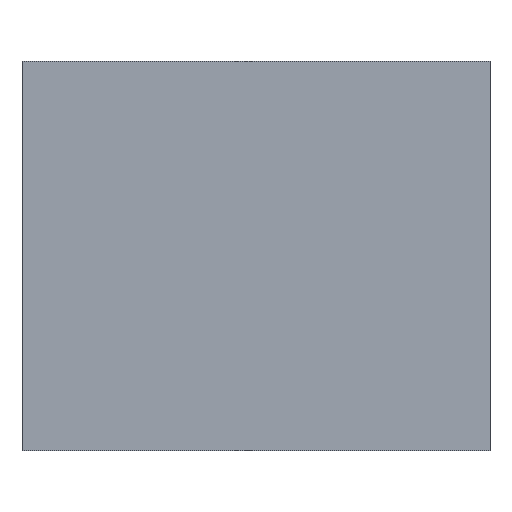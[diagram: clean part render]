
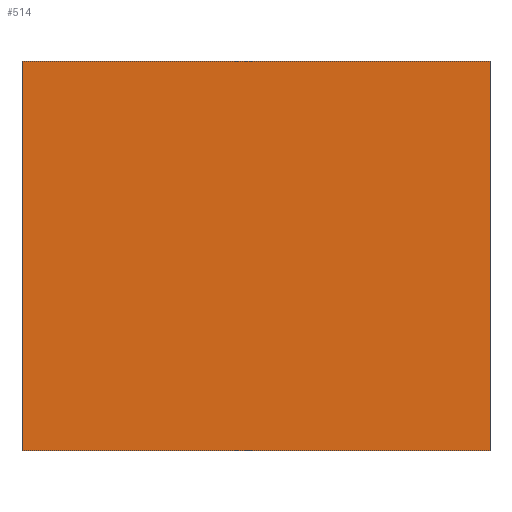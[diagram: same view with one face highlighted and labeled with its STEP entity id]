
A CAD part, front view. The second image highlights one B-rep face of the part: STEP entity #514.
In plain terms, the highlighted planar face has unit normal (0, -1, 0).
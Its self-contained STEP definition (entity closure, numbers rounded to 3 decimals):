
#44 = PLANE('',#45);
#45 = AXIS2_PLACEMENT_3D('',#46,#47,#48);
#46 = CARTESIAN_POINT('',(15.,45.,25.));
#47 = DIRECTION('',(-1.,0.,0.));
#48 = DIRECTION('',(0.,0.,-1.));
#72 = PLANE('',#73);
#73 = AXIS2_PLACEMENT_3D('',#74,#75,#76);
#74 = CARTESIAN_POINT('',(15.,45.,25.));
#75 = DIRECTION('',(0.,0.,-1.));
#76 = DIRECTION('',(0.,-1.,0.));
#100 = PLANE('',#101);
#101 = AXIS2_PLACEMENT_3D('',#102,#103,#104);
#102 = CARTESIAN_POINT('',(-15.,45.,25.));
#103 = DIRECTION('',(-1.,0.,0.));
#104 = DIRECTION('',(0.,0.,-1.));
#126 = PLANE('',#127);
#127 = AXIS2_PLACEMENT_3D('',#128,#129,#130);
#128 = CARTESIAN_POINT('',(15.,45.,0.));
#129 = DIRECTION('',(0.,0.,-1.));
#130 = DIRECTION('',(0.,-1.,0.));
#142 = VERTEX_POINT('',#143);
#143 = CARTESIAN_POINT('',(15.,-45.,25.));
#166 = VERTEX_POINT('',#167);
#167 = CARTESIAN_POINT('',(15.,-45.,0.));
#188 = EDGE_CURVE('',#142,#166,#189,.T.);
#189 = SURFACE_CURVE('',#190,(#194,#201),.PCURVE_S1.);
#190 = LINE('',#191,#192);
#191 = CARTESIAN_POINT('',(15.,-45.,25.));
#192 = VECTOR('',#193,1.);
#193 = DIRECTION('',(0.,0.,-1.));
#194 = PCURVE('',#44,#195);
#195 = DEFINITIONAL_REPRESENTATION('',(#196),#200);
#196 = LINE('',#197,#198);
#197 = CARTESIAN_POINT('',(0.,90.));
#198 = VECTOR('',#199,1.);
#199 = DIRECTION('',(1.,0.));
#200 = ( GEOMETRIC_REPRESENTATION_CONTEXT(2) 
PARAMETRIC_REPRESENTATION_CONTEXT() REPRESENTATION_CONTEXT('2D SPACE',''
  ) );
#201 = PCURVE('',#202,#207);
#202 = PLANE('',#203);
#203 = AXIS2_PLACEMENT_3D('',#204,#205,#206);
#204 = CARTESIAN_POINT('',(15.,-45.,25.));
#205 = DIRECTION('',(0.,-1.,0.));
#206 = DIRECTION('',(0.,0.,-1.));
#207 = DEFINITIONAL_REPRESENTATION('',(#208),#212);
#208 = LINE('',#209,#210);
#209 = CARTESIAN_POINT('',(0.,0.));
#210 = VECTOR('',#211,1.);
#211 = DIRECTION('',(1.,0.));
#212 = ( GEOMETRIC_REPRESENTATION_CONTEXT(2) 
PARAMETRIC_REPRESENTATION_CONTEXT() REPRESENTATION_CONTEXT('2D SPACE',''
  ) );
#281 = EDGE_CURVE('',#166,#282,#284,.T.);
#282 = VERTEX_POINT('',#283);
#283 = CARTESIAN_POINT('',(-15.,-45.,0.));
#284 = SURFACE_CURVE('',#285,(#289,#296),.PCURVE_S1.);
#285 = LINE('',#286,#287);
#286 = CARTESIAN_POINT('',(15.,-45.,0.));
#287 = VECTOR('',#288,1.);
#288 = DIRECTION('',(-1.,0.,0.));
#289 = PCURVE('',#126,#290);
#290 = DEFINITIONAL_REPRESENTATION('',(#291),#295);
#291 = LINE('',#292,#293);
#292 = CARTESIAN_POINT('',(90.,0.));
#293 = VECTOR('',#294,1.);
#294 = DIRECTION('',(0.,1.));
#295 = ( GEOMETRIC_REPRESENTATION_CONTEXT(2) 
PARAMETRIC_REPRESENTATION_CONTEXT() REPRESENTATION_CONTEXT('2D SPACE',''
  ) );
#296 = PCURVE('',#202,#297);
#297 = DEFINITIONAL_REPRESENTATION('',(#298),#302);
#298 = LINE('',#299,#300);
#299 = CARTESIAN_POINT('',(25.,0.));
#300 = VECTOR('',#301,1.);
#301 = DIRECTION('',(0.,-1.));
#302 = ( GEOMETRIC_REPRESENTATION_CONTEXT(2) 
PARAMETRIC_REPRESENTATION_CONTEXT() REPRESENTATION_CONTEXT('2D SPACE',''
  ) );
#329 = VERTEX_POINT('',#330);
#330 = CARTESIAN_POINT('',(-15.,-45.,25.));
#353 = EDGE_CURVE('',#329,#282,#354,.T.);
#354 = SURFACE_CURVE('',#355,(#359,#366),.PCURVE_S1.);
#355 = LINE('',#356,#357);
#356 = CARTESIAN_POINT('',(-15.,-45.,25.));
#357 = VECTOR('',#358,1.);
#358 = DIRECTION('',(0.,0.,-1.));
#359 = PCURVE('',#100,#360);
#360 = DEFINITIONAL_REPRESENTATION('',(#361),#365);
#361 = LINE('',#362,#363);
#362 = CARTESIAN_POINT('',(0.,90.));
#363 = VECTOR('',#364,1.);
#364 = DIRECTION('',(1.,0.));
#365 = ( GEOMETRIC_REPRESENTATION_CONTEXT(2) 
PARAMETRIC_REPRESENTATION_CONTEXT() REPRESENTATION_CONTEXT('2D SPACE',''
  ) );
#366 = PCURVE('',#202,#367);
#367 = DEFINITIONAL_REPRESENTATION('',(#368),#372);
#368 = LINE('',#369,#370);
#369 = CARTESIAN_POINT('',(0.,-30.));
#370 = VECTOR('',#371,1.);
#371 = DIRECTION('',(1.,0.));
#372 = ( GEOMETRIC_REPRESENTATION_CONTEXT(2) 
PARAMETRIC_REPRESENTATION_CONTEXT() REPRESENTATION_CONTEXT('2D SPACE',''
  ) );
#431 = EDGE_CURVE('',#142,#329,#432,.T.);
#432 = SURFACE_CURVE('',#433,(#437,#444),.PCURVE_S1.);
#433 = LINE('',#434,#435);
#434 = CARTESIAN_POINT('',(15.,-45.,25.));
#435 = VECTOR('',#436,1.);
#436 = DIRECTION('',(-1.,0.,0.));
#437 = PCURVE('',#72,#438);
#438 = DEFINITIONAL_REPRESENTATION('',(#439),#443);
#439 = LINE('',#440,#441);
#440 = CARTESIAN_POINT('',(90.,0.));
#441 = VECTOR('',#442,1.);
#442 = DIRECTION('',(0.,1.));
#443 = ( GEOMETRIC_REPRESENTATION_CONTEXT(2) 
PARAMETRIC_REPRESENTATION_CONTEXT() REPRESENTATION_CONTEXT('2D SPACE',''
  ) );
#444 = PCURVE('',#202,#445);
#445 = DEFINITIONAL_REPRESENTATION('',(#446),#450);
#446 = LINE('',#447,#448);
#447 = CARTESIAN_POINT('',(0.,0.));
#448 = VECTOR('',#449,1.);
#449 = DIRECTION('',(0.,-1.));
#450 = ( GEOMETRIC_REPRESENTATION_CONTEXT(2) 
PARAMETRIC_REPRESENTATION_CONTEXT() REPRESENTATION_CONTEXT('2D SPACE',''
  ) );
#514 = ADVANCED_FACE('',(#515),#202,.T.);
#515 = FACE_BOUND('',#516,.T.);
#516 = EDGE_LOOP('',(#517,#518,#519,#520));
#517 = ORIENTED_EDGE('',*,*,#188,.F.);
#518 = ORIENTED_EDGE('',*,*,#431,.T.);
#519 = ORIENTED_EDGE('',*,*,#353,.T.);
#520 = ORIENTED_EDGE('',*,*,#281,.F.);
